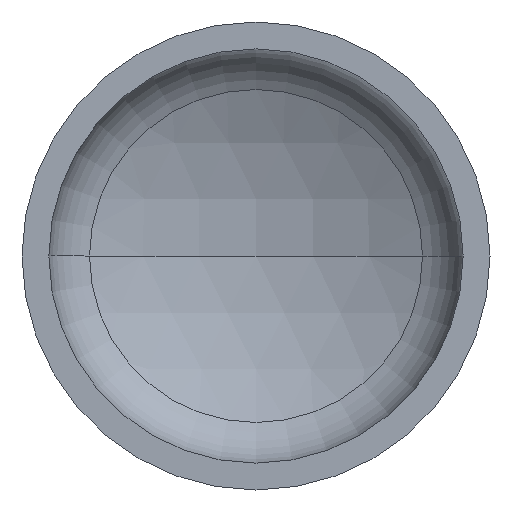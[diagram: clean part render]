
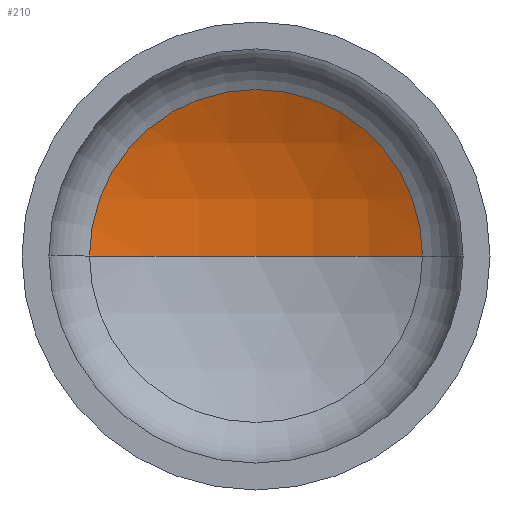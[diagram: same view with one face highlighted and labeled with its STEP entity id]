
A CAD part, front view. The second image highlights one B-rep face of the part: STEP entity #210.
In plain terms, the highlighted spherical face has radius 640 mm.
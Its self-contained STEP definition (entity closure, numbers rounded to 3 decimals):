
#4 = AXIS2_PLACEMENT_3D ( 'NONE', #122, #57, #258 ) ;
#9 = ORIENTED_EDGE ( 'NONE', *, *, #305, .F. ) ;
#12 = AXIS2_PLACEMENT_3D ( 'NONE', #368, #392, #388 ) ;
#19 = DIRECTION ( 'NONE',  ( 0., 0., -1. ) ) ;
#21 = AXIS2_PLACEMENT_3D ( 'NONE', #178, #19, #160 ) ;
#50 = DIRECTION ( 'NONE',  ( 0., -1., 0. ) ) ;
#57 = DIRECTION ( 'NONE',  ( 0., 0., 1. ) ) ;
#120 = VERTEX_POINT ( 'NONE', #168 ) ;
#122 = CARTESIAN_POINT ( 'NONE',  ( 0., -321.285, 0. ) ) ;
#153 = CIRCLE ( 'NONE', #286, 284.583 ) ;
#160 = DIRECTION ( 'NONE',  ( -1., 0., 0. ) ) ;
#161 = CIRCLE ( 'NONE', #4, 640. ) ;
#168 = CARTESIAN_POINT ( 'NONE',  ( 284.583, 251.962, 0. ) ) ;
#172 = CARTESIAN_POINT ( 'NONE',  ( 0., 318.715, 0. ) ) ;
#174 = CIRCLE ( 'NONE', #12, 640. ) ;
#175 = ORIENTED_EDGE ( 'NONE', *, *, #280, .T. ) ;
#178 = CARTESIAN_POINT ( 'NONE',  ( 0., -321.285, 0. ) ) ;
#192 = FACE_OUTER_BOUND ( 'NONE', #400, .T. ) ;
#202 = DIRECTION ( 'NONE',  ( 1., 0., 0. ) ) ;
#210 = ADVANCED_FACE ( 'NONE', ( #192 ), #403, .F. ) ;
#238 = ORIENTED_EDGE ( 'NONE', *, *, #334, .T. ) ;
#243 = VERTEX_POINT ( 'NONE', #172 ) ;
#258 = DIRECTION ( 'NONE',  ( 1., 0., 0. ) ) ;
#280 = EDGE_CURVE ( 'NONE', #243, #120, #174, .T. ) ;
#286 = AXIS2_PLACEMENT_3D ( 'NONE', #369, #50, #202 ) ;
#305 = EDGE_CURVE ( 'NONE', #243, #354, #161, .T. ) ;
#334 = EDGE_CURVE ( 'NONE', #120, #354, #153, .T. ) ;
#354 = VERTEX_POINT ( 'NONE', #396 ) ;
#368 = CARTESIAN_POINT ( 'NONE',  ( 0., -321.285, 0. ) ) ;
#369 = CARTESIAN_POINT ( 'NONE',  ( 0., 251.962, 0. ) ) ;
#388 = DIRECTION ( 'NONE',  ( -1., 0., 0. ) ) ;
#392 = DIRECTION ( 'NONE',  ( 0., 0., -1. ) ) ;
#396 = CARTESIAN_POINT ( 'NONE',  ( -284.583, 251.962, 0. ) ) ;
#400 = EDGE_LOOP ( 'NONE', ( #9, #175, #238 ) ) ;
#403 = SPHERICAL_SURFACE ( 'NONE', #21, 640. ) ;
